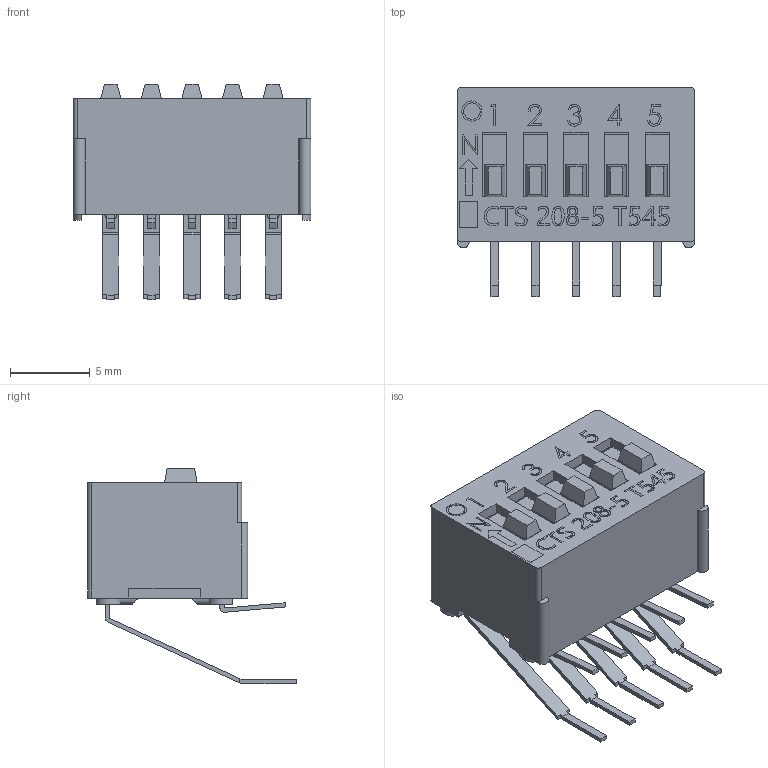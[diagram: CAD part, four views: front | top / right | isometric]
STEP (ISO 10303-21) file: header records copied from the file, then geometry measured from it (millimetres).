
FILE_DESCRIPTION (( 'STEP AP214' ), '1' );
FILE_NAME ('208-5RA.STEP', '2019-05-28T02:44:04', ( '' ), ( '' ), 'SwSTEP 2.0', 'SolidWorks 2019', '' );
FILE_SCHEMA (( 'AUTOMOTIVE_DESIGN' ));
Length unit declared in the file: millimetre
Products named in the file (4): 208-5RA; 206005RAS- Base assly; 206-56-014-35-01; 208-5RA cover
Assembly tree (7 placements, depth 2):
  208-5RA
    208-5RA cover
    206-56-014-35-01  x5
    206005RAS- Base assly
Bounding box: 14.88 x 13.08 x 13.5 mm (x, y, z)
Volume: 663.9 mm3; surface area: 2126.3 mm2
Topology: 7 solids, 7 shells, 655 faces, 1763 edges, 1164 vertices
Faces by surface type: plane 465, bspline 114, cylinder 76
Entity records: 22518 total; most frequent: CARTESIAN_POINT 9938, ORIENTED_EDGE 2718, DIRECTION 2019, EDGE_CURVE 1359, VECTOR 1033, LINE 1033, VERTEX_POINT 900, EDGE_LOOP 553
